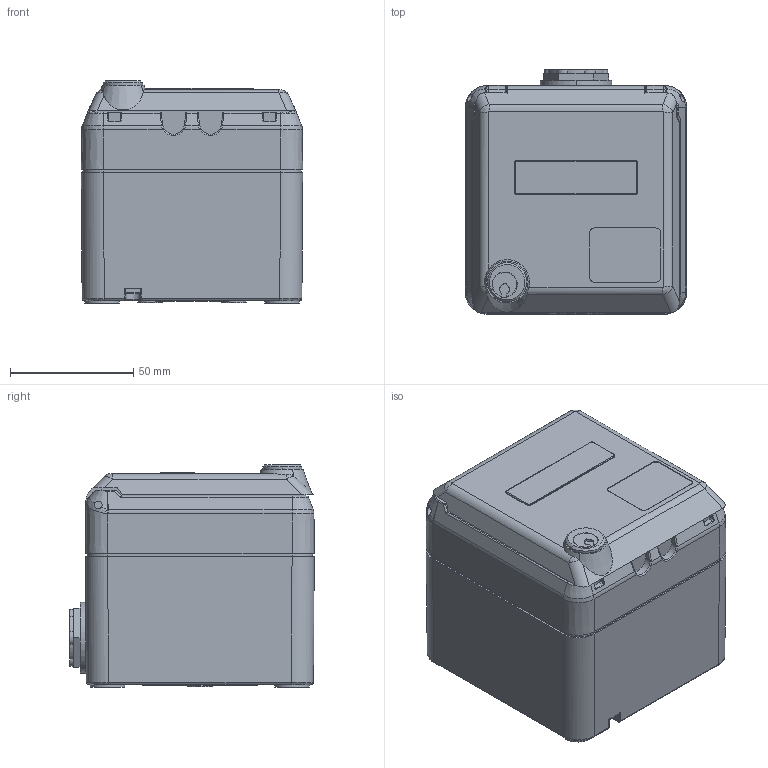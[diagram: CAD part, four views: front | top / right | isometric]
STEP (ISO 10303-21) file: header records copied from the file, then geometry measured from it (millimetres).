
FILE_DESCRIPTION((''),'2;1');
FILE_NAME('4300_DUMMY_SW0001','2018-08-24T',('Gisse'),('MENNEKES'),'PRO/ENGINEER BY PARAMETRIC TECHNOLOGY CORPORATION, 2015440','PRO/ENGINEER BY PARAMETRIC TECHNOLOGY CORPORATION, 2015440','');
FILE_SCHEMA(('AUTOMOTIVE_DESIGN { 1 0 10303 214 1 1 1 1 }'));
Length unit declared in the file: millimetre
Products named in the file (1): 4300_DUMMY_SW0001
Bounding box: 90 x 99.4 x 90.3 mm (x, y, z)
Volume: 691835.9 mm3; surface area: 52667.2 mm2
Topology: 1 solids, 1 shells, 608 faces, 1607 edges, 1024 vertices
Faces by surface type: plane 331, cylinder 164, bspline 60, cone 31, torus 18, sphere 2, extrusion 2
Entity records: 28565 total; most frequent: CARTESIAN_POINT 6412, ORIENTED_EDGE 3206, DIRECTION 2907, EDGE_CURVE 1603, FILL_AREA_STYLE_COLOUR 1153, FILL_AREA_STYLE 1153, SURFACE_STYLE_FILL_AREA 1153, SURFACE_SIDE_STYLE 1153
